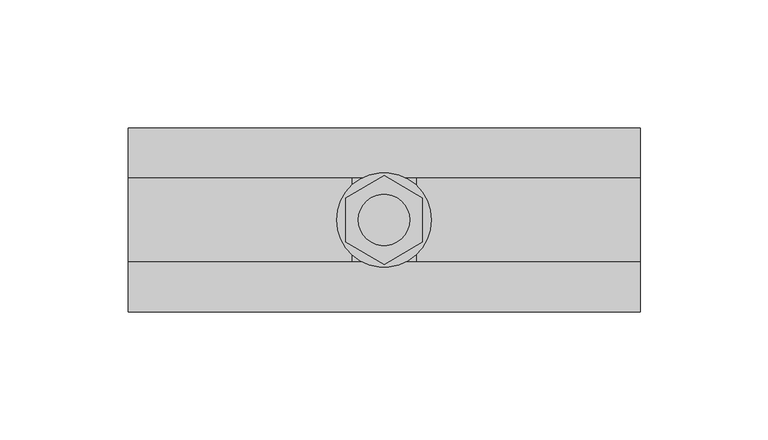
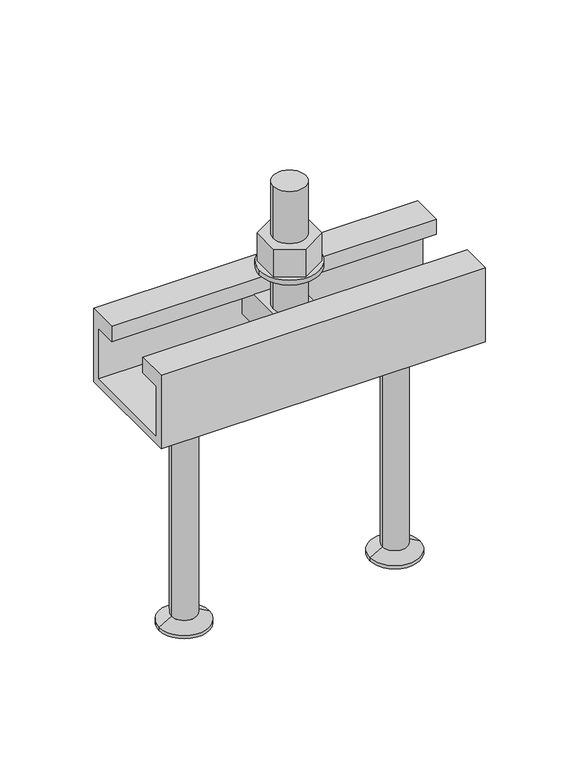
"""IFC4 building model written with IfcOpenShell, lengths in millimetres: fastener geometry, JTA-W JORDAHL® AnchorChannels : JTA-W L=200 mm."""

import ifcopenshell
import ifcopenshell.guid

model = None  # the IFC model being written
_history = None  # IfcOwnerHistory: only IFC2X3 demands one
_inside = {}  # id of a spatial element -> (the spatial element, [elements in it])
_under = {}  # id of a project, library or spatial element -> (it, [spatial elements below it])
_declared = {}  # id of a project -> (the project, [libraries it declares])
_typed = {}  # id of a type object -> (the type object, [elements of that type])
_made_of = {}  # id of a material, layer set ... -> (it, [elements and type objects made of it])


def new_model(schema):
    """Start an empty IFC model of exactly this schema.

    Asked for "IFC4X3", IfcOpenShell would pick the latest addendum, in which some entities
    have other attributes; the version numbers below select the first issue.
    IFC2X3 requires an IfcOwnerHistory on every rooted entity: one is made here for all.
    """
    global model, _history
    if schema == "IFC4X3":
        model = ifcopenshell.file(schema_version=(4, 3, 0, 0))
    else:
        model = ifcopenshell.file(schema=schema)
    _inside.clear()
    _under.clear()
    _declared.clear()
    _typed.clear()
    _made_of.clear()
    _history = None
    if model.schema == "IFC2X3":
        org = make("IfcOrganization", Name="unknown")
        user = make(
            "IfcPersonAndOrganization",
            ThePerson=make("IfcPerson", FamilyName="unknown"),
            TheOrganization=org,
        )
        app = make(
            "IfcApplication",
            ApplicationDeveloper=org,
            Version="unknown",
            ApplicationFullName="unknown",
            ApplicationIdentifier="unknown",
        )
        _history = make(
            "IfcOwnerHistory",
            OwningUser=user,
            OwningApplication=app,
            ChangeAction="ADDED",
            CreationDate=0,
        )
    return model


def make(cls, **values):
    """One entity of the class cls with the attributes given. An attribute that is None is left unset."""
    return model.create_entity(
        cls, **{name: value for name, value in values.items() if value is not None}
    )


def rooted(cls, **values):
    """An entity with a GlobalId (a new one), such as an element, a storey or a relation."""
    return make(cls, GlobalId=ifcopenshell.guid.new(), OwnerHistory=_history, **values)


def si_unit(unit_type, name, prefix=None):
    """IfcSIUnit, for example si_unit("LENGTHUNIT", "METRE", prefix="MILLI")."""
    return make("IfcSIUnit", UnitType=unit_type, Prefix=prefix, Name=name)


def assignment(units):
    """IfcUnitAssignment: the units of a project."""
    return None if units is None else make("IfcUnitAssignment", Units=units)


def point(xyz):
    """IfcCartesianPoint."""
    return None if xyz is None else make("IfcCartesianPoint", Coordinates=xyz)


def direction(xyz):
    """IfcDirection."""
    return None if xyz is None else make("IfcDirection", DirectionRatios=xyz)


def frame(location, z_axis=None, x_axis=None):
    """IfcAxis2Placement3D, a coordinate frame: its origin and axes. An axis left out is left unset."""
    return make(
        "IfcAxis2Placement3D",
        Location=point(location),
        Axis=direction(z_axis),
        RefDirection=direction(x_axis),
    )


def frame_2d(location, x_axis=None):
    """IfcAxis2Placement2D, a coordinate frame in the plane: its origin and x axis."""
    return make(
        "IfcAxis2Placement2D", Location=point(location), RefDirection=direction(x_axis)
    )


def origin():
    """The frame at (0, 0, 0) with its axes left unset."""
    return frame((0.0, 0.0, 0.0))


def place(relative_to, where):
    """IfcLocalPlacement: puts the frame where relative to a parent placement (None: the world)."""
    return make(
        "IfcLocalPlacement", PlacementRelTo=relative_to, RelativePlacement=where
    )


def context(
    kind, dimensions, precision=None, world=None, true_north=None, identifier=None
):
    """IfcGeometricRepresentationContext, for example the 3D "Model" context."""
    return make(
        "IfcGeometricRepresentationContext",
        ContextIdentifier=identifier,
        ContextType=kind,
        CoordinateSpaceDimension=dimensions,
        Precision=precision,
        WorldCoordinateSystem=world,
        TrueNorth=true_north,
    )


def project(units=None, contexts=None):
    """IfcProject with its units and contexts."""
    return rooted(
        "IfcProject",
        Name="project",
        RepresentationContexts=contexts,
        UnitsInContext=assignment(units),
    )


def spatial(cls, under=None, at=None, **own):
    """A site, building, storey or space (cls), placed at a placement, below another one or the project."""
    s = rooted(cls, ObjectPlacement=at, **own)
    if under is not None:
        _under.setdefault(under.id(), (under, []))[1].append(s)
    return s


def polyline(points):
    """IfcPolyline through the points."""
    return make("IfcPolyline", Points=[point(p) for p in points])


def circle_curve(where, radius):
    """IfcCircle in the frame where."""
    return make("IfcCircle", Position=where, Radius=radius)


def trimmed(basis, trim1, trim2, sense, master):
    """IfcTrimmedCurve: the piece of a basis curve between two trims."""
    return make(
        "IfcTrimmedCurve",
        BasisCurve=basis,
        Trim1=trim1,
        Trim2=trim2,
        SenseAgreement=sense,
        MasterRepresentation=master,
    )


def segment(curve, same_sense, transition):
    """IfcCompositeCurveSegment."""
    return make(
        "IfcCompositeCurveSegment",
        Transition=transition,
        SameSense=same_sense,
        ParentCurve=curve,
    )


def composite_curve(segments, self_intersect=None):
    """IfcCompositeCurve: segments joined end to end."""
    return make("IfcCompositeCurve", Segments=segments, SelfIntersect=self_intersect)


def outline(outer, holes=None, kind="AREA"):
    """IfcArbitraryClosedProfileDef: a profile drawn as a closed curve; with holes, ...WithVoids."""
    if holes is None:
        return make("IfcArbitraryClosedProfileDef", ProfileType=kind, OuterCurve=outer)
    return make(
        "IfcArbitraryProfileDefWithVoids",
        ProfileType=kind,
        OuterCurve=outer,
        InnerCurves=holes,
    )


def extrude(swept, where, along, depth):
    """IfcExtrudedAreaSolid: the profile swept, set in the frame where, extruded along a direction by depth."""
    return make(
        "IfcExtrudedAreaSolid",
        SweptArea=swept,
        Position=where,
        ExtrudedDirection=direction(along),
        Depth=depth,
    )


def shape(context_of_items, identifier, shape_type, items):
    """IfcShapeRepresentation: the items that make up one representation, for example the "Body"."""
    return make(
        "IfcShapeRepresentation",
        ContextOfItems=context_of_items,
        RepresentationIdentifier=identifier,
        RepresentationType=shape_type,
        Items=items,
    )


def source(mapping_origin, context_of_items, identifier, shape_type, items):
    """IfcRepresentationMap: a shape defined once, which mapped items show again and again."""
    return make(
        "IfcRepresentationMap",
        MappingOrigin=mapping_origin,
        MappedRepresentation=shape(context_of_items, identifier, shape_type, items),
    )


def transform(
    local_origin,
    x_axis=None,
    y_axis=None,
    z_axis=None,
    scale=None,
    scale2=None,
    scale3=None,
    uniform=True,
):
    """IfcCartesianTransformationOperator3D, or its non-uniform kind. x_axis, y_axis, z_axis: its Axis1, 2, 3."""
    if uniform:
        return make(
            "IfcCartesianTransformationOperator3D",
            Axis1=direction(x_axis),
            Axis2=direction(y_axis),
            LocalOrigin=point(local_origin),
            Scale=scale,
            Axis3=direction(z_axis),
        )
    return make(
        "IfcCartesianTransformationOperator3DnonUniform",
        Axis1=direction(x_axis),
        Axis2=direction(y_axis),
        LocalOrigin=point(local_origin),
        Scale=scale,
        Axis3=direction(z_axis),
        Scale2=scale2,
        Scale3=scale3,
    )


def mapped(mapping_source, mapping_target):
    """IfcMappedItem: shows the shape of a source again, moved by a transform."""
    return make(
        "IfcMappedItem", MappingSource=mapping_source, MappingTarget=mapping_target
    )


def made_of(thing, what):
    """Note that an element or type object is made of a material, layer set ...; save() writes the relation."""
    if what is not None:
        _made_of.setdefault(what.id(), (what, []))[1].append(thing)
    return thing


def element(
    cls,
    number,
    at=None,
    inside=None,
    cuts=None,
    type_object=None,
    material=None,
    context=None,
    identifier="Body",
    shape_type=None,
    held_by="IfcProductDefinitionShape",
    body=None,
    shapes=None,
    **own,
):
    """One element of the class cls, such as IfcWall. Its Tag is "e" and its number.

    at: its placement. inside: the storey or other place that contains it. cuts: it is an
    opening in that element (IfcRelVoidsElement). A single representation is given by context,
    identifier, shape_type and body (its items); several are given by shapes. held_by: the class
    of the entity that holds the representations. save() writes the other relations.
    """
    e = rooted(cls, Tag="e%d" % number, ObjectPlacement=at, **own)
    if body is not None:
        shapes = [shape(context, identifier, shape_type, body)]
    if shapes is not None:
        e.Representation = make(held_by, Representations=shapes)
    if inside is not None:
        _inside.setdefault(inside.id(), (inside, []))[1].append(e)
    if cuts is not None:
        rooted(
            "IfcRelVoidsElement", RelatingBuildingElement=cuts, RelatedOpeningElement=e
        )
    if type_object is not None:
        _typed.setdefault(type_object.id(), (type_object, []))[1].append(e)
    return made_of(e, material)


def aggregate(whole, parts):
    """IfcRelAggregates: a whole, such as a stair, and the parts it consists of."""
    return rooted("IfcRelAggregates", RelatingObject=whole, RelatedObjects=parts)


def save(model, path):
    """Write the relations noted so far, then the file.

    IfcRelAggregates (storeys below a building ...), IfcRelContainedInSpatialStructure (elements
    in a storey), IfcRelDefinesByType, IfcRelAssociatesMaterial and IfcRelDeclares: one each for
    every whole, place, type object, material and project.
    """
    for whole, parts in _under.values():
        aggregate(whole, parts)
    for where, things in _inside.values():
        rooted(
            "IfcRelContainedInSpatialStructure",
            RelatedElements=things,
            RelatingStructure=where,
        )
    for kind, things in _typed.values():
        rooted("IfcRelDefinesByType", RelatedObjects=things, RelatingType=kind)
    for what, things in _made_of.values():
        rooted("IfcRelAssociatesMaterial", RelatedObjects=things, RelatingMaterial=what)
    for by, libraries in _declared.values():
        rooted("IfcRelDeclares", RelatingContext=by, RelatedDefinitions=libraries)
    model.write(path)


def plane_surface(at):
    """IfcPlane: the flat surface through the origin of the frame at, square to its z axis."""
    return make("IfcPlane", Position=at)


def cylinder_surface(at, radius):
    """IfcCylindricalSurface: all points at the distance radius from the z axis of the frame at."""
    return make("IfcCylindricalSurface", Position=at, Radius=radius)


def revolved_surface(curve, axis_point, axis_direction):
    """IfcSurfaceOfRevolution: the curve turned about the line through axis_point along axis_direction."""
    return make(
        "IfcSurfaceOfRevolution",
        SweptCurve=make("IfcArbitraryOpenProfileDef", ProfileType="CURVE", Curve=curve),
        AxisPosition=make("IfcAxis1Placement", Location=point(axis_point), Axis=direction(axis_direction)),
    )


def advanced_brep(points, edges, surfaces, faces):
    """IfcAdvancedBrep: a solid bounded by faces that lie on surfaces and meet in shared edges.

    An edge is (start, end): straight between two places in points (the first is 0);
    or (start, end, curve); or (start, end, curve, False) where it runs against its curve.
    A face is (place in surfaces, loops), or (place, loops, False) where it looks against
    its surface's normal. A loop lists edges by number (the first is 1), with a minus sign
    where the edge is run from its end to its start. The first loop is the outer one.
    """
    corners = [point(p) for p in points]
    vertices = [make("IfcVertexPoint", VertexGeometry=c) for c in corners]
    made = []
    for start, end, *more in edges:
        made.append(
            make(
                "IfcEdgeCurve",
                EdgeStart=vertices[start],
                EdgeEnd=vertices[end],
                EdgeGeometry=more[0] if more else make("IfcPolyline", Points=[corners[start], corners[end]]),
                SameSense=more[1] if len(more) > 1 else True,
            )
        )
    hull = []
    for where, loops, *sense in faces:
        bounds = []
        for j, loop in enumerate(loops):
            ring = [make("IfcOrientedEdge", EdgeElement=made[abs(k) - 1], Orientation=k > 0) for k in loop]
            bounds.append(
                make(
                    "IfcFaceOuterBound" if j == 0 else "IfcFaceBound",
                    Bound=make("IfcEdgeLoop", EdgeList=ring),
                    Orientation=True,
                )
            )
        hull.append(make("IfcAdvancedFace", Bounds=bounds, FaceSurface=surfaces[where], SameSense=sense[0] if sense else True))
    return make("IfcAdvancedBrep", Outer=make("IfcClosedShell", CfsFaces=hull))


def fastener_d06169fd(model_context):
    return source(origin(), model_context, "Body", "SolidModel", [
        extrude(outline(polyline([(100.0, 17.3205081), (115.0, 8.660254), (115.0, -8.660254), (100.0, -17.3205081), (85.0, -8.660254), (85.0, 8.660254), (100.0, 17.3205081)]), holes=[composite_curve([segment(trimmed(circle_curve(frame_2d((100.0, 0.0)), 10.0), [point((90.0, 0.0))], [point((110.0, 0.0))], True, "CARTESIAN"), True, "CONTINUOUS"), segment(trimmed(circle_curve(frame_2d((100.0, 0.0)), 10.0), [point((110.0, 0.0))], [point((90.0, 0.0))], True, "CARTESIAN"), True, "CONTINUOUS")], self_intersect=False)]), frame((0.0, 0.0, 18.0), z_axis=(0.0, 0.0, 1.0), x_axis=(1.0, 0.0, 0.0)), (0.0, 0.0, 1.0), 18.0),
        extrude(outline(composite_curve([segment(trimmed(circle_curve(frame_2d((100.0, 0.0)), 18.5), [point((81.5, 0.0))], [point((118.5, 0.0))], False, "CARTESIAN"), True, "CONTINUOUS"), segment(trimmed(circle_curve(frame_2d((100.0, 0.0)), 18.5), [point((118.5, 0.0))], [point((81.5, 0.0))], False, "CARTESIAN"), True, "CONTINUOUS")], self_intersect=False), holes=[composite_curve([segment(trimmed(circle_curve(frame_2d((100.0, 0.0)), 10.5), [point((89.5, 0.0))], [point((110.5, 0.0))], True, "CARTESIAN"), True, "CONTINUOUS"), segment(trimmed(circle_curve(frame_2d((100.0, 0.0)), 10.5), [point((110.5, 0.0))], [point((89.5, 0.0))], True, "CARTESIAN"), True, "CONTINUOUS")], self_intersect=False)]), frame((0.0, 0.0, 15.0), z_axis=(0.0, 0.0, 1.0), x_axis=(1.0, 0.0, 0.0)), (0.0, 0.0, 1.0), 3.0),
        advanced_brep(
        [(112.5, 29.0, -10.0), (112.5, -29.0, -10.0), (112.5, -29.0, -30.0), (112.5, 29.0, -30.0), (87.5, 29.0, -10.0), (87.5, 29.0, -30.0), (87.5, -29.0, -30.0), (87.5, -29.0, -10.0), (110.0, 0.0, -10.0), (90.0, 0.0, -10.0), (90.0, 0.0, 70.0), (110.0, 0.0, 70.0)],
        [
            (0, 1),
            (1, 2),
            (2, 3),
            (3, 0),
            (4, 5),
            (5, 6),
            (6, 7),
            (7, 4),
            (0, 4),
            (7, 1),
            (8, 9, circle_curve(frame((100.0, 0.0, -10.0), z_axis=(0.0, 0.0, -1.0), x_axis=(1.0, 0.0, 0.0)), 10.0)),
            (9, 8, circle_curve(frame((100.0, 0.0, -10.0), z_axis=(0.0, 0.0, -1.0), x_axis=(1.0, 0.0, 0.0)), 10.0)),
            (6, 2),
            (5, 3),
            (10, 11, circle_curve(frame((100.0, 0.0, 70.0), z_axis=(0.0, 0.0, 1.0), x_axis=(1.0, 0.0, 0.0)), 10.0)),
            (11, 10, circle_curve(frame((100.0, 0.0, 70.0), z_axis=(0.0, 0.0, 1.0), x_axis=(1.0, 0.0, 0.0)), 10.0)),
            (10, 9),
            (8, 11),
        ],
        [
            plane_surface(frame((112.5, -29.0, -10.0), z_axis=(1.0, 0.0, 0.0), x_axis=(0.0, -1.0, 0.0))),
            plane_surface(frame((87.5, -29.0, -10.0), z_axis=(-1.0, 0.0, 0.0), x_axis=(0.0, 1.0, 0.0))),
            plane_surface(frame((112.5, 29.0, -10.0), z_axis=(0.0, 0.0, 1.0), x_axis=(-1.0, 0.0, 0.0))),
            plane_surface(frame((112.5, -29.0, -10.0), z_axis=(0.0, -1.0, 0.0), x_axis=(-1.0, 0.0, 0.0))),
            plane_surface(frame((112.5, -29.0, -30.0), z_axis=(0.0, 0.0, -1.0), x_axis=(-1.0, 0.0, 0.0))),
            plane_surface(frame((112.5, 29.0, -30.0), z_axis=(0.0, 1.0, 0.0), x_axis=(-1.0, 0.0, 0.0))),
            plane_surface(frame((110.0, 0.0, 70.0), z_axis=(0.0, 0.0, 1.0), x_axis=(0.0, 1.0, 0.0))),
            cylinder_surface(frame((100.0, 0.0, -10.0), z_axis=(0.0, 0.0, 1.0), x_axis=(1.0, 0.0, 0.0)), 10.0),
        ],
        [
            (0, [[1, 2, 3, 4]]),
            (1, [[5, 6, 7, 8]]),
            (2, [[-1, 9, -8, 10], [11, 12]]),
            (3, [[-2, -10, -7, 13]]),
            (4, [[-3, -13, -6, 14]]),
            (5, [[-4, -14, -5, -9]]),
            (6, [[15, 16]]),
            (7, [[-15, 17, -11, 18]]),
            (7, [[-16, -18, -12, -17]]),
        ],
    ),
        advanced_brep(
        [(165.0, 0.0, -48.0), (188.0, 0.0, -48.0), (142.0, 0.0, -48.0), (149.5, 0.0, -195.0), (180.5, 0.0, -195.0), (165.0, 0.0, -195.0), (149.5, 0.0, -193.0), (180.5, 0.0, -193.0), (157.2, 0.0, -188.5544029), (172.8, 0.0, -188.5544029), (157.2, 0.0, -52.0), (172.8, 0.0, -52.0)],
        [
            (0, 1),
            (1, 2, circle_curve(frame((165.0, 0.0, -48.0), z_axis=(0.0, 0.0, 1.0), x_axis=(1.0, 0.0, 0.0)), 23.0)),
            (2, 0),
            (2, 1, circle_curve(frame((165.0, 0.0, -48.0), z_axis=(0.0, 0.0, 1.0), x_axis=(1.0, 0.0, 0.0)), 23.0)),
            (3, 4, circle_curve(frame((165.0, 0.0, -195.0), z_axis=(0.0, 0.0, -1.0), x_axis=(1.0, 0.0, 0.0)), 15.5)),
            (4, 5),
            (5, 3),
            (4, 3, circle_curve(frame((165.0, 0.0, -195.0), z_axis=(0.0, 0.0, -1.0), x_axis=(1.0, 0.0, 0.0)), 15.5)),
            (6, 7, circle_curve(frame((165.0, 0.0, -193.0), z_axis=(0.0, 0.0, -1.0), x_axis=(1.0, 0.0, 0.0)), 15.5)),
            (7, 4),
            (3, 6),
            (7, 6, circle_curve(frame((165.0, 0.0, -193.0), z_axis=(0.0, 0.0, -1.0), x_axis=(1.0, 0.0, 0.0)), 15.5)),
            (8, 9, circle_curve(frame((165.0, 0.0, -188.5544029), z_axis=(0.0, 0.0, -1.0), x_axis=(1.0, 0.0, 0.0)), 7.8)),
            (9, 7),
            (6, 8),
            (9, 8, circle_curve(frame((165.0, 0.0, -188.5544029), z_axis=(0.0, 0.0, -1.0), x_axis=(1.0, 0.0, 0.0)), 7.8)),
            (10, 11, circle_curve(frame((165.0, 0.0, -52.0), z_axis=(0.0, 0.0, -1.0), x_axis=(1.0, 0.0, 0.0)), 7.8)),
            (11, 9),
            (8, 10),
            (11, 10, circle_curve(frame((165.0, 0.0, -52.0), z_axis=(0.0, 0.0, -1.0), x_axis=(1.0, 0.0, 0.0)), 7.8)),
            (1, 11),
            (10, 2),
        ],
        [
            plane_surface(frame((165.0, 0.0, -48.0), z_axis=(0.0, 0.0, 1.0), x_axis=(1.0, 0.0, 0.0))),
            plane_surface(frame((165.0, 0.0, -195.0), z_axis=(0.0, 0.0, -1.0), x_axis=(1.0, 0.0, 0.0))),
            cylinder_surface(frame((165.0, 0.0, 2361.3150031), z_axis=(0.0, 0.0, 1.0), x_axis=(1.0, 0.0, 0.0)), 15.5),
            revolved_surface(polyline([(180.5, 0.0, -193.0), (172.8, 0.0, -188.5544029)]), (165.0, 0.0, 2361.3150031), (0.0, 0.0, 1.0)),
            cylinder_surface(frame((165.0, 0.0, 2361.3150031), z_axis=(0.0, 0.0, 1.0), x_axis=(1.0, 0.0, 0.0)), 7.8),
            revolved_surface(polyline([(172.8, 0.0, -52.0), (188.0, 0.0, -48.0)]), (165.0, 0.0, 2361.3150031), (0.0, 0.0, 1.0)),
        ],
        [
            (0, [[1, 2, 3]]),
            (0, [[-3, 4, -1]]),
            (1, [[5, 6, 7]]),
            (1, [[8, -7, -6]]),
            (2, [[9, 10, -5, 11]]),
            (2, [[12, -11, -8, -10]]),
            (3, [[13, 14, -9, 15]]),
            (3, [[16, -15, -12, -14]]),
            (4, [[17, 18, -13, 19]]),
            (4, [[20, -19, -16, -18]]),
            (5, [[-2, 21, -17, 22]]),
            (5, [[-4, -22, -20, -21]]),
        ],
    ),
        advanced_brep(
        [(35.0, 0.0, -48.0), (58.0, 0.0, -48.0), (12.0, 0.0, -48.0), (19.5, 0.0, -195.0), (50.5, 0.0, -195.0), (35.0, 0.0, -195.0), (19.5, 0.0, -193.0), (50.5, 0.0, -193.0), (27.2, 0.0, -188.5544029), (42.8, 0.0, -188.5544029), (27.2, 0.0, -52.0), (42.8, 0.0, -52.0)],
        [
            (0, 1),
            (1, 2, circle_curve(frame((35.0, 0.0, -48.0), z_axis=(0.0, 0.0, 1.0), x_axis=(1.0, 0.0, 0.0)), 23.0)),
            (2, 0),
            (2, 1, circle_curve(frame((35.0, 0.0, -48.0), z_axis=(0.0, 0.0, 1.0), x_axis=(1.0, 0.0, 0.0)), 23.0)),
            (3, 4, circle_curve(frame((35.0, 0.0, -195.0), z_axis=(0.0, 0.0, -1.0), x_axis=(1.0, 0.0, 0.0)), 15.5)),
            (4, 5),
            (5, 3),
            (4, 3, circle_curve(frame((35.0, 0.0, -195.0), z_axis=(0.0, 0.0, -1.0), x_axis=(1.0, 0.0, 0.0)), 15.5)),
            (6, 7, circle_curve(frame((35.0, 0.0, -193.0), z_axis=(0.0, 0.0, -1.0), x_axis=(1.0, 0.0, 0.0)), 15.5)),
            (7, 4),
            (3, 6),
            (7, 6, circle_curve(frame((35.0, 0.0, -193.0), z_axis=(0.0, 0.0, -1.0), x_axis=(1.0, 0.0, 0.0)), 15.5)),
            (8, 9, circle_curve(frame((35.0, 0.0, -188.5544029), z_axis=(0.0, 0.0, -1.0), x_axis=(1.0, 0.0, 0.0)), 7.8)),
            (9, 7),
            (6, 8),
            (9, 8, circle_curve(frame((35.0, 0.0, -188.5544029), z_axis=(0.0, 0.0, -1.0), x_axis=(1.0, 0.0, 0.0)), 7.8)),
            (10, 11, circle_curve(frame((35.0, 0.0, -52.0), z_axis=(0.0, 0.0, -1.0), x_axis=(1.0, 0.0, 0.0)), 7.8)),
            (11, 9),
            (8, 10),
            (11, 10, circle_curve(frame((35.0, 0.0, -52.0), z_axis=(0.0, 0.0, -1.0), x_axis=(1.0, 0.0, 0.0)), 7.8)),
            (1, 11),
            (10, 2),
        ],
        [
            plane_surface(frame((35.0, 0.0, -48.0), z_axis=(0.0, 0.0, 1.0), x_axis=(1.0, 0.0, 0.0))),
            plane_surface(frame((35.0, 0.0, -195.0), z_axis=(0.0, 0.0, -1.0), x_axis=(1.0, 0.0, 0.0))),
            cylinder_surface(frame((35.0, 0.0, 2361.3150031), z_axis=(0.0, 0.0, 1.0), x_axis=(1.0, 0.0, 0.0)), 15.5),
            revolved_surface(polyline([(50.5, 0.0, -193.0), (42.8, 0.0, -188.5544029)]), (35.0, 0.0, 2361.3150031), (0.0, 0.0, 1.0)),
            cylinder_surface(frame((35.0, 0.0, 2361.3150031), z_axis=(0.0, 0.0, 1.0), x_axis=(1.0, 0.0, 0.0)), 7.8),
            revolved_surface(polyline([(42.8, 0.0, -52.0), (58.0, 0.0, -48.0)]), (35.0, 0.0, 2361.3150031), (0.0, 0.0, 1.0)),
        ],
        [
            (0, [[1, 2, 3]]),
            (0, [[-3, 4, -1]]),
            (1, [[5, 6, 7]]),
            (1, [[8, -7, -6]]),
            (2, [[9, 10, -5, 11]]),
            (2, [[12, -11, -8, -10]]),
            (3, [[13, 14, -9, 15]]),
            (3, [[16, -15, -12, -14]]),
            (4, [[17, 18, -13, 19]]),
            (4, [[20, -19, -16, -18]]),
            (5, [[-2, 21, -17, 22]]),
            (5, [[-4, -22, -20, -21]]),
        ],
    ),
        extrude(outline(polyline([(36.0, 0.0), (36.0, -48.0), (-36.0, -48.0), (-36.0, 0.0), (-16.5, 0.0), (-16.5, -10.0), (-31.0, -10.0), (-31.0, -43.0), (31.0, -43.0), (31.0, -10.0), (16.5, -10.0), (16.5, 0.0), (36.0, 0.0)])), frame((0.0, 0.0, 0.0), z_axis=(1.0, 0.0, 0.0), x_axis=(0.0, 1.0, 0.0)), (0.0, 0.0, 1.0), 200.0),
    ])


if __name__ == "__main__":
    model = new_model("IFC4")
    model_context = context("Model", 3, world=origin())
    ifc_project = project(units=[si_unit("LENGTHUNIT", "METRE", prefix="MILLI")], contexts=[model_context])
    site = spatial("IfcSite", under=ifc_project)
    building = spatial("IfcBuilding", under=site)
    placement = place(None, origin())
    fastener_shape = fastener_d06169fd(model_context)
    element("IfcFastener", 1, ObjectType="JTA-W JORDAHL® AnchorChannels : JTA-W L=200 mm", at=placement, inside=building, context=model_context, shape_type="MappedRepresentation", body=[
        mapped(fastener_shape, transform((0.0, 0.0, 0.0), x_axis=(1.0, 0.0, 0.0), y_axis=(0.0, 1.0, 0.0), z_axis=(0.0, 0.0, 1.0))),
    ])
    save(model, "model.ifc")
